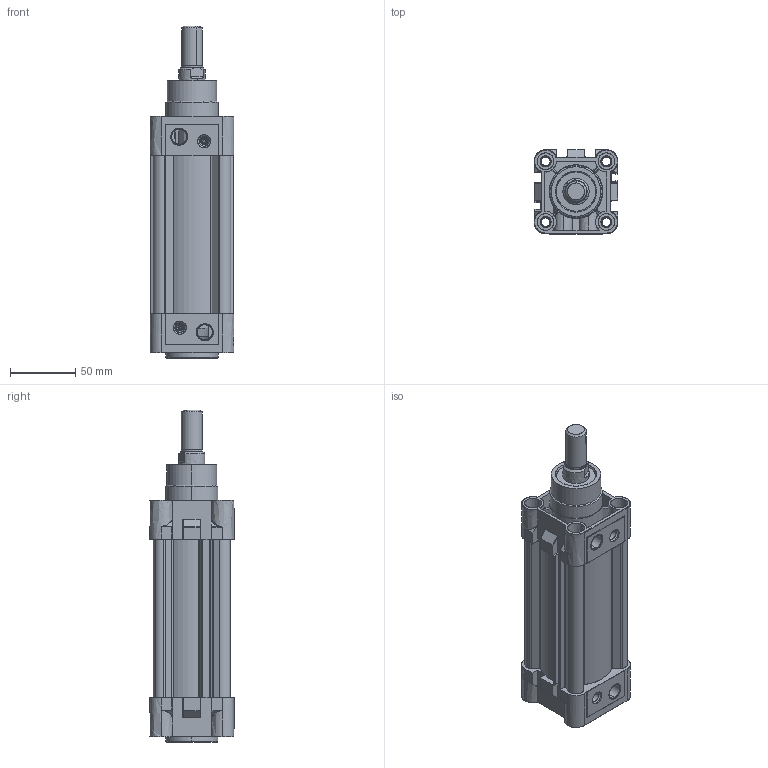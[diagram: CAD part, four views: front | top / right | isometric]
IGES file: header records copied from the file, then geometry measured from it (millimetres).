
Start section: SolidWorks IGES file using analytic representation for surfaces
Global section: file name: D:\ARICA 3D 禽Z軲LER\3D IGES\KDNT\KDNT50\KDNT50x75CYLINDER.IGS,1; native system: 5HSolidWorks 2013; preprocessor: SolidWorks 2013; author: user; date: 160323.160533; units: millimetre
Bounding box: 64 x 64.3 x 254 mm (x, y, z)
Surface area: 177873.9 mm2 (no closed solid volume)
Topology: 0 solids, 0 shells, 773 faces, 14000 edges, 13996 vertices
Faces by surface type: revolution 445, bspline 328
